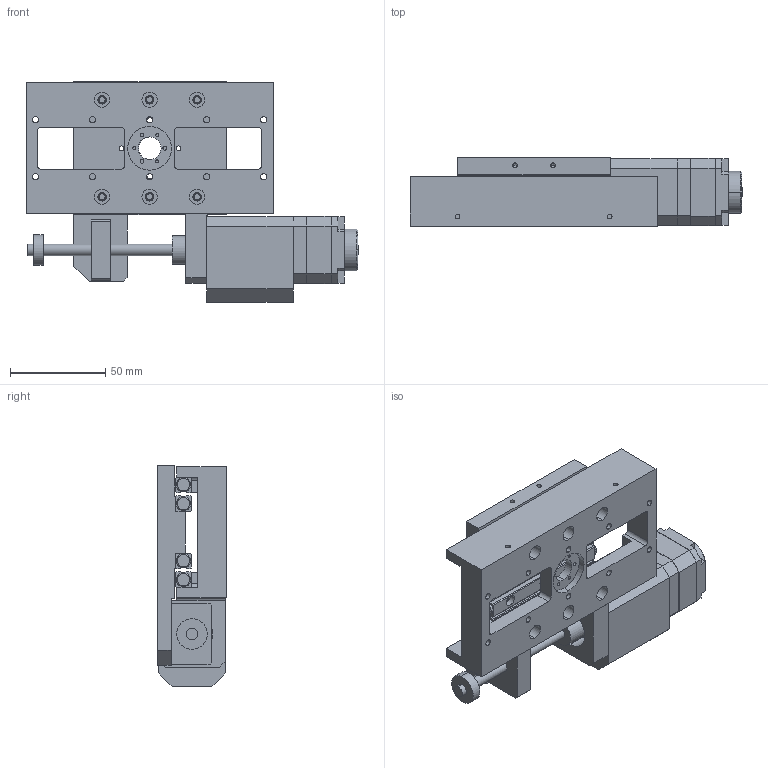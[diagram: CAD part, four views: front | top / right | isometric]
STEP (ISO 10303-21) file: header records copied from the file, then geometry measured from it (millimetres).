
FILE_DESCRIPTION (( 'STEP AP214' ), '1' );
FILE_NAME ('VSM17-X-050-HR STEP.STEP', '2022-12-15T12:37:17', ( '' ), ( '' ), 'SwSTEP 2.0', 'SolidWorks 2022', '' );
FILE_SCHEMA (( 'AUTOMOTIVE_DESIGN' ));
Length unit declared in the file: millimetre
Products named in the file (8): Simplified Motor_H; Simplified VSM17-X-050 Base V2; Simplified Leadscrew Nut; Simplified Gearbox; Simplified Drivetrain_VSM17-X-50; Simplified Bearing 050; Simplified VSM17-X-050 Carriage; VSM17-X-050-HR STEP
Assembly tree (10 placements, depth 2):
  VSM17-X-050-HR STEP
    Simplified VSM17-X-050 Base V2
    Simplified Bearing 050  x4
    Simplified Motor_H
    Simplified Drivetrain_VSM17-X-50
    Simplified VSM17-X-050 Carriage
    Simplified Leadscrew Nut
    Simplified Gearbox
Bounding box: 174.6 x 36 x 116 mm (x, y, z)
Volume: 302215.8 mm3; surface area: 92515.9 mm2
Topology: 10 solids, 10 shells, 585 faces, 1488 edges, 956 vertices
Faces by surface type: cylinder 262, plane 251, cone 56, torus 16
Entity records: 14462 total; most frequent: DIRECTION 2385, CARTESIAN_POINT 2380, ORIENTED_EDGE 2152, EDGE_CURVE 1076, AXIS2_PLACEMENT_3D 884, VERTEX_POINT 707, LINE 617, VECTOR 617
